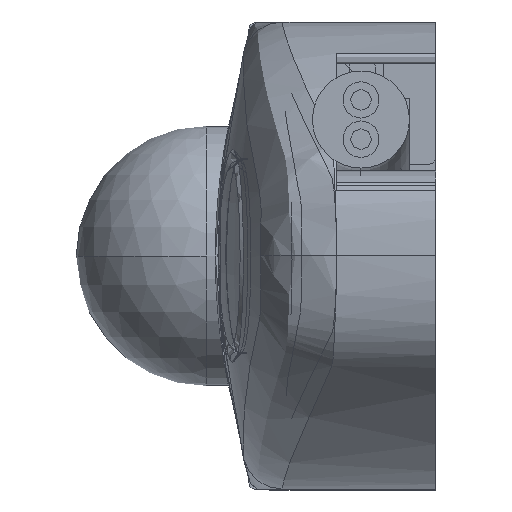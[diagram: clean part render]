
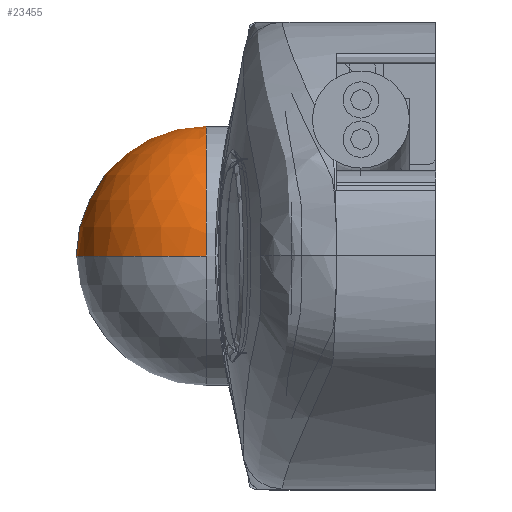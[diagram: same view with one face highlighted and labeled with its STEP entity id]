
A CAD part, left-side view. The second image highlights one B-rep face of the part: STEP entity #23455.
In plain terms, the highlighted spherical face has radius 4.95 mm.
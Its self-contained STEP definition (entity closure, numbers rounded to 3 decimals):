
#1270 = CIRCLE ( 'NONE', #21410, 4.95 ) ;
#1939 = CARTESIAN_POINT ( 'NONE',  ( -1.85, 6.75, 0. ) ) ;
#2655 = FACE_OUTER_BOUND ( 'NONE', #20870, .T. ) ;
#2672 = ORIENTED_EDGE ( 'NONE', *, *, #13198, .F. ) ;
#2968 = CARTESIAN_POINT ( 'NONE',  ( -1.85, 6.75, 0. ) ) ;
#3980 = DIRECTION ( 'NONE',  ( 0., -1., 0. ) ) ;
#4423 = DIRECTION ( 'NONE',  ( -1., 0., 0. ) ) ;
#6396 = CARTESIAN_POINT ( 'NONE',  ( -1.85, 6.75, 4.95 ) ) ;
#8787 = ORIENTED_EDGE ( 'NONE', *, *, #16828, .T. ) ;
#8901 = VERTEX_POINT ( 'NONE', #27054 ) ;
#9134 = EDGE_CURVE ( 'NONE', #11582, #8901, #1270, .T. ) ;
#9285 = AXIS2_PLACEMENT_3D ( 'NONE', #12067, #29215, #14526 ) ;
#9535 = CARTESIAN_POINT ( 'NONE',  ( -1.85, 6.75, 0. ) ) ;
#9813 = CARTESIAN_POINT ( 'NONE',  ( 3.1, 6.75, 0. ) ) ;
#11582 = VERTEX_POINT ( 'NONE', #6396 ) ;
#11606 = VERTEX_POINT ( 'NONE', #16097 ) ;
#11928 = ORIENTED_EDGE ( 'NONE', *, *, #9134, .F. ) ;
#11983 = DIRECTION ( 'NONE',  ( 1., 0., 0. ) ) ;
#12067 = CARTESIAN_POINT ( 'NONE',  ( -1.85, 6.75, 0. ) ) ;
#13198 = EDGE_CURVE ( 'NONE', #11606, #20216, #18160, .T. ) ;
#13906 = AXIS2_PLACEMENT_3D ( 'NONE', #2968, #29778, #20048 ) ;
#14526 = DIRECTION ( 'NONE',  ( 0., 0., -1. ) ) ;
#15883 = AXIS2_PLACEMENT_3D ( 'NONE', #9535, #26661, #11983 ) ;
#16097 = CARTESIAN_POINT ( 'NONE',  ( -1.85, 11.7, 0. ) ) ;
#16828 = EDGE_CURVE ( 'NONE', #11606, #8901, #19291, .T. ) ;
#18160 = CIRCLE ( 'NONE', #18503, 4.95 ) ;
#18503 = AXIS2_PLACEMENT_3D ( 'NONE', #1939, #19029, #4423 ) ;
#18585 = CARTESIAN_POINT ( 'NONE',  ( -1.85, 6.75, 0. ) ) ;
#19029 = DIRECTION ( 'NONE',  ( 0., 0., -1. ) ) ;
#19291 = CIRCLE ( 'NONE', #15883, 4.95 ) ;
#20048 = DIRECTION ( 'NONE',  ( 1., 0., 0. ) ) ;
#20216 = VERTEX_POINT ( 'NONE', #9813 ) ;
#20870 = EDGE_LOOP ( 'NONE', ( #2672, #8787, #11928, #29210 ) ) ;
#21067 = DIRECTION ( 'NONE',  ( 0., 0., -1. ) ) ;
#21406 = SPHERICAL_SURFACE ( 'NONE', #13906, 4.95 ) ;
#21410 = AXIS2_PLACEMENT_3D ( 'NONE', #18585, #3980, #21067 ) ;
#22118 = CIRCLE ( 'NONE', #9285, 4.95 ) ;
#23455 = ADVANCED_FACE ( 'NONE', ( #2655 ), #21406, .T. ) ;
#24406 = EDGE_CURVE ( 'NONE', #20216, #11582, #22118, .T. ) ;
#26661 = DIRECTION ( 'NONE',  ( 0., 0., 1. ) ) ;
#27054 = CARTESIAN_POINT ( 'NONE',  ( -6.8, 6.75, 0. ) ) ;
#29210 = ORIENTED_EDGE ( 'NONE', *, *, #24406, .F. ) ;
#29215 = DIRECTION ( 'NONE',  ( 0., -1., 0. ) ) ;
#29778 = DIRECTION ( 'NONE',  ( 0., 0., 1. ) ) ;
